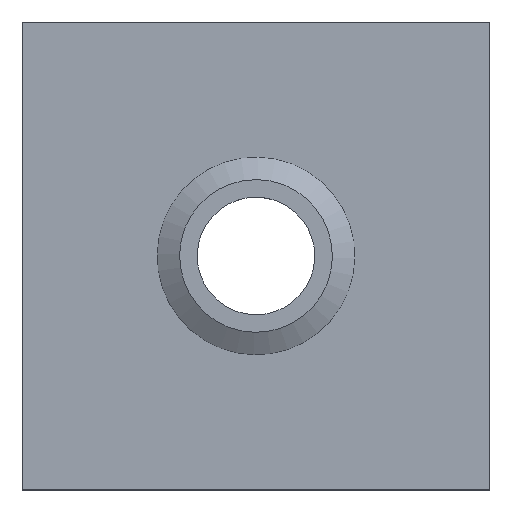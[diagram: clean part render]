
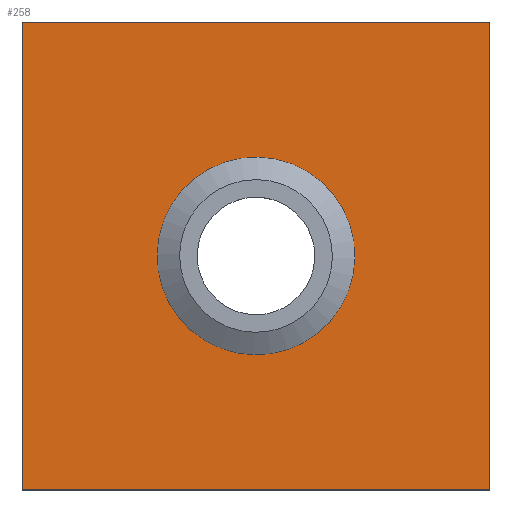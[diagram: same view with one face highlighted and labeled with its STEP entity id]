
A CAD part, top view. The second image highlights one B-rep face of the part: STEP entity #258.
In plain terms, the highlighted planar face has unit normal (0, 0, 1).
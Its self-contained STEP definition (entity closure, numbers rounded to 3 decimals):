
#19=FACE_BOUND('',#65,.T.);
#27=PLANE('',#309);
#44=FACE_OUTER_BOUND('',#64,.T.);
#64=EDGE_LOOP('',(#205,#206,#207,#208));
#65=EDGE_LOOP('',(#209));
#78=LINE('',#433,#96);
#82=LINE('',#440,#100);
#83=LINE('',#443,#101);
#84=LINE('',#444,#102);
#96=VECTOR('',#367,1.);
#100=VECTOR('',#373,1.);
#101=VECTOR('',#376,1.);
#102=VECTOR('',#377,1.);
#116=CIRCLE('',#306,77.5);
#127=VERTEX_POINT('',#423);
#130=VERTEX_POINT('',#430);
#131=VERTEX_POINT('',#432);
#133=VERTEX_POINT('',#437);
#134=VERTEX_POINT('',#442);
#152=EDGE_CURVE('',#127,#127,#116,.F.);
#155=EDGE_CURVE('',#131,#130,#78,.F.);
#159=EDGE_CURVE('',#133,#131,#82,.T.);
#160=EDGE_CURVE('',#130,#134,#83,.T.);
#161=EDGE_CURVE('',#134,#133,#84,.T.);
#205=ORIENTED_EDGE('',*,*,#155,.T.);
#206=ORIENTED_EDGE('',*,*,#160,.T.);
#207=ORIENTED_EDGE('',*,*,#161,.T.);
#208=ORIENTED_EDGE('',*,*,#159,.T.);
#209=ORIENTED_EDGE('',*,*,#152,.T.);
#258=ADVANCED_FACE('',(#44,#19),#27,.T.);
#306=AXIS2_PLACEMENT_3D('',#425,#361,#362);
#309=AXIS2_PLACEMENT_3D('',#441,#374,#375);
#361=DIRECTION('center_axis',(0.,0.,1.));
#362=DIRECTION('ref_axis',(-1.,0.,0.));
#367=DIRECTION('',(1.,0.,0.));
#373=DIRECTION('',(0.,1.,0.));
#374=DIRECTION('center_axis',(0.,0.,1.));
#375=DIRECTION('ref_axis',(1.,0.,0.));
#376=DIRECTION('',(0.,-1.,0.));
#377=DIRECTION('',(1.,0.,0.));
#423=CARTESIAN_POINT('',(0.,-77.5,1.25));
#425=CARTESIAN_POINT('Origin',(0.,0.,1.25));
#430=CARTESIAN_POINT('',(-248.75,248.75,1.25));
#432=CARTESIAN_POINT('',(248.75,248.75,1.25));
#433=CARTESIAN_POINT('',(0.,248.75,1.25));
#437=CARTESIAN_POINT('',(248.75,-248.75,1.25));
#440=CARTESIAN_POINT('',(248.75,0.,1.25));
#441=CARTESIAN_POINT('Origin',(0.,0.,1.25));
#442=CARTESIAN_POINT('',(-248.75,-248.75,1.25));
#443=CARTESIAN_POINT('',(-248.75,0.,1.25));
#444=CARTESIAN_POINT('',(0.,-248.75,1.25));
